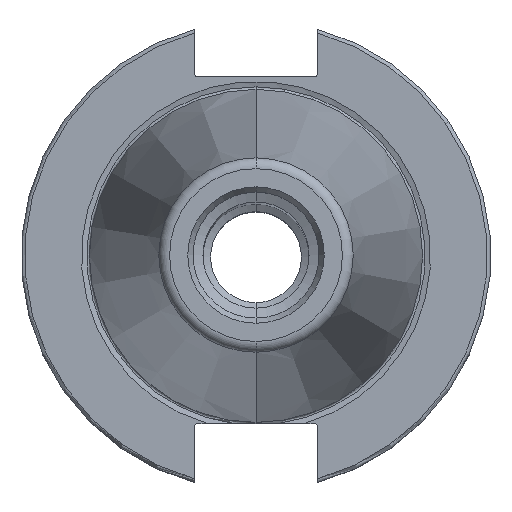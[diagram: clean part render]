
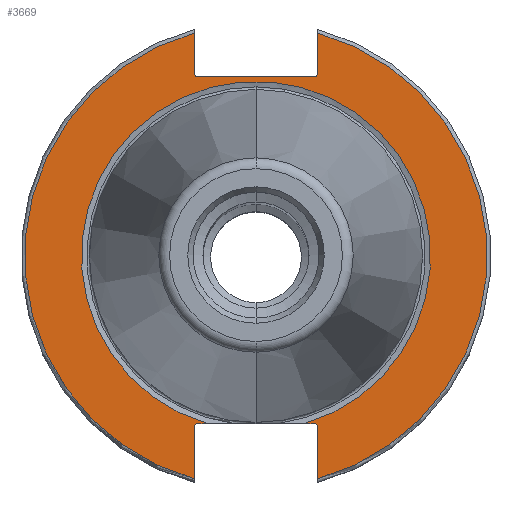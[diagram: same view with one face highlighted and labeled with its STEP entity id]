
A CAD part, top view. The second image highlights one B-rep face of the part: STEP entity #3669.
In plain terms, the highlighted planar face has unit normal (0, 0, 1).
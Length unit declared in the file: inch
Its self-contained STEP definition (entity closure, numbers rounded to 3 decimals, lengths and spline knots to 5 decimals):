
#4 = CIRCLE ( 'NONE', #862, 0.03 ) ;
#29 = PLANE ( 'NONE',  #1503 ) ;
#46 = DIRECTION ( 'NONE',  ( 0., 1., 0. ) ) ;
#84 = CARTESIAN_POINT ( 'NONE',  ( -0.40209, -1.3825, -0.125 ) ) ;
#96 = EDGE_CURVE ( 'NONE', #1644, #322, #4034, .T. ) ;
#107 = LINE ( 'NONE', #2568, #898 ) ;
#146 = LINE ( 'NONE', #733, #2021 ) ;
#147 = ORIENTED_EDGE ( 'NONE', *, *, #2076, .T. ) ;
#150 = LINE ( 'NONE', #2987, #1886 ) ;
#161 = CARTESIAN_POINT ( 'NONE',  ( 0.48, 1.5075, -0.125 ) ) ;
#171 = DIRECTION ( 'NONE',  ( 0., -1., 0. ) ) ;
#226 = CARTESIAN_POINT ( 'NONE',  ( -0.48, 1.4775, -0.125 ) ) ;
#227 = ORIENTED_EDGE ( 'NONE', *, *, #2098, .T. ) ;
#259 = ORIENTED_EDGE ( 'NONE', *, *, #475, .T. ) ;
#281 = EDGE_CURVE ( 'NONE', #3824, #469, #4, .T. ) ;
#303 = AXIS2_PLACEMENT_3D ( 'NONE', #1936, #3169, #328 ) ;
#315 = DIRECTION ( 'NONE',  ( 0., 1., 0. ) ) ;
#321 = VERTEX_POINT ( 'NONE', #2393 ) ;
#322 = VERTEX_POINT ( 'NONE', #1815 ) ;
#328 = DIRECTION ( 'NONE',  ( 0., -1., 0. ) ) ;
#332 = FACE_OUTER_BOUND ( 'NONE', #1821, .T. ) ;
#387 = CARTESIAN_POINT ( 'NONE',  ( -0.48, -1.3825, -0.125 ) ) ;
#388 = DIRECTION ( 'NONE',  ( 0., -1., 0. ) ) ;
#430 = VECTOR ( 'NONE', #4054, 39.37008 ) ;
#469 = VERTEX_POINT ( 'NONE', #3675 ) ;
#475 = EDGE_CURVE ( 'NONE', #3869, #3201, #705, .T. ) ;
#551 = ORIENTED_EDGE ( 'NONE', *, *, #96, .F. ) ;
#585 = DIRECTION ( 'NONE',  ( 0., -1., 0. ) ) ;
#618 = ORIENTED_EDGE ( 'NONE', *, *, #3320, .T. ) ;
#688 = EDGE_CURVE ( 'NONE', #1234, #2871, #2702, .T. ) ;
#705 = LINE ( 'NONE', #1775, #3702 ) ;
#710 = CARTESIAN_POINT ( 'NONE',  ( -0.51, 1.5075, -0.125 ) ) ;
#712 = DIRECTION ( 'NONE',  ( 0., -1., 0. ) ) ;
#733 = CARTESIAN_POINT ( 'NONE',  ( -0.51, 0., -0.125 ) ) ;
#809 = ORIENTED_EDGE ( 'NONE', *, *, #3701, .T. ) ;
#862 = AXIS2_PLACEMENT_3D ( 'NONE', #161, #2709, #1116 ) ;
#867 = CARTESIAN_POINT ( 'NONE',  ( 0.51, 1.5075, -0.125 ) ) ;
#898 = VECTOR ( 'NONE', #3811, 39.37008 ) ;
#901 = CARTESIAN_POINT ( 'NONE',  ( 1.9075, 1.4775, -0.125 ) ) ;
#936 = DIRECTION ( 'NONE',  ( 0., 0., -1. ) ) ;
#939 = DIRECTION ( 'NONE',  ( 0., 0., -1. ) ) ;
#1016 = CARTESIAN_POINT ( 'NONE',  ( -0.51, 1.83806, -0.125 ) ) ;
#1035 = CIRCLE ( 'NONE', #3218, 1.43979 ) ;
#1036 = VECTOR ( 'NONE', #1330, 39.37008 ) ;
#1085 = DIRECTION ( 'NONE',  ( 0., 0., -1. ) ) ;
#1116 = DIRECTION ( 'NONE',  ( 0., -1., 0. ) ) ;
#1142 = AXIS2_PLACEMENT_3D ( 'NONE', #1252, #939, #315 ) ;
#1191 = CARTESIAN_POINT ( 'NONE',  ( 0.48, -1.4125, -0.125 ) ) ;
#1212 = LINE ( 'NONE', #901, #430 ) ;
#1234 = VERTEX_POINT ( 'NONE', #2527 ) ;
#1252 = CARTESIAN_POINT ( 'NONE',  ( 0., 0., -0.125 ) ) ;
#1300 = ORIENTED_EDGE ( 'NONE', *, *, #2767, .T. ) ;
#1303 = ORIENTED_EDGE ( 'NONE', *, *, #688, .F. ) ;
#1330 = DIRECTION ( 'NONE',  ( 0., 1., 0. ) ) ;
#1503 = AXIS2_PLACEMENT_3D ( 'NONE', #2544, #2585, #712 ) ;
#1543 = ORIENTED_EDGE ( 'NONE', *, *, #3044, .T. ) ;
#1590 = DIRECTION ( 'NONE',  ( 0., 0., -1. ) ) ;
#1632 = VECTOR ( 'NONE', #2997, 39.37008 ) ;
#1644 = VERTEX_POINT ( 'NONE', #1923 ) ;
#1692 = VERTEX_POINT ( 'NONE', #710 ) ;
#1729 = EDGE_CURVE ( 'NONE', #2871, #1692, #146, .T. ) ;
#1735 = CARTESIAN_POINT ( 'NONE',  ( 0.51, 0., -0.125 ) ) ;
#1775 = CARTESIAN_POINT ( 'NONE',  ( 1.9075, -1.3825, -0.125 ) ) ;
#1815 = CARTESIAN_POINT ( 'NONE',  ( 0.51, -1.83806, -0.125 ) ) ;
#1821 = EDGE_LOOP ( 'NONE', ( #1851, #1303, #618, #227, #2829, #147, #259, #1300, #809, #551, #3439, #2886, #3601, #1543 ) ) ;
#1851 = ORIENTED_EDGE ( 'NONE', *, *, #1729, .F. ) ;
#1886 = VECTOR ( 'NONE', #2652, 39.37008 ) ;
#1923 = CARTESIAN_POINT ( 'NONE',  ( 0.51, 1.83806, -0.125 ) ) ;
#1931 = DIRECTION ( 'NONE',  ( 0., 1., 0. ) ) ;
#1936 = CARTESIAN_POINT ( 'NONE',  ( -0.48, -1.4125, -0.125 ) ) ;
#2021 = VECTOR ( 'NONE', #388, 39.37008 ) ;
#2076 = EDGE_CURVE ( 'NONE', #2141, #3869, #1035, .T. ) ;
#2077 = DIRECTION ( 'NONE',  ( 1., 0., 0. ) ) ;
#2092 = CIRCLE ( 'NONE', #303, 0.03 ) ;
#2098 = EDGE_CURVE ( 'NONE', #3760, #3280, #2092, .T. ) ;
#2141 = VERTEX_POINT ( 'NONE', #84 ) ;
#2324 = VERTEX_POINT ( 'NONE', #226 ) ;
#2334 = CARTESIAN_POINT ( 'NONE',  ( -0.51, -1.4125, -0.125 ) ) ;
#2393 = CARTESIAN_POINT ( 'NONE',  ( 0.51, -1.4125, -0.125 ) ) ;
#2527 = CARTESIAN_POINT ( 'NONE',  ( -0.51, -1.83806, -0.125 ) ) ;
#2544 = CARTESIAN_POINT ( 'NONE',  ( 1.9075, 0., -0.125 ) ) ;
#2568 = CARTESIAN_POINT ( 'NONE',  ( 1.9075, -1.3825, -0.125 ) ) ;
#2585 = DIRECTION ( 'NONE',  ( 0., 0., 1. ) ) ;
#2652 = DIRECTION ( 'NONE',  ( 0., -1., 0. ) ) ;
#2680 = CIRCLE ( 'NONE', #3743, 0.03 ) ;
#2702 = CIRCLE ( 'NONE', #3821, 1.9075 ) ;
#2709 = DIRECTION ( 'NONE',  ( 0., 0., -1. ) ) ;
#2736 = CARTESIAN_POINT ( 'NONE',  ( -0.48, 1.5075, -0.125 ) ) ;
#2764 = AXIS2_PLACEMENT_3D ( 'NONE', #1191, #936, #585 ) ;
#2767 = EDGE_CURVE ( 'NONE', #3201, #321, #4072, .T. ) ;
#2829 = ORIENTED_EDGE ( 'NONE', *, *, #2932, .T. ) ;
#2871 = VERTEX_POINT ( 'NONE', #1016 ) ;
#2886 = ORIENTED_EDGE ( 'NONE', *, *, #281, .T. ) ;
#2896 = LINE ( 'NONE', #2935, #1036 ) ;
#2916 = CARTESIAN_POINT ( 'NONE',  ( 0., 0., -0.125 ) ) ;
#2932 = EDGE_CURVE ( 'NONE', #3280, #2141, #107, .T. ) ;
#2935 = CARTESIAN_POINT ( 'NONE',  ( -0.51, 0., -0.125 ) ) ;
#2987 = CARTESIAN_POINT ( 'NONE',  ( 0.51, 0., -0.125 ) ) ;
#2997 = DIRECTION ( 'NONE',  ( 0., 1., 0. ) ) ;
#3044 = EDGE_CURVE ( 'NONE', #2324, #1692, #2680, .T. ) ;
#3078 = CARTESIAN_POINT ( 'NONE',  ( 0.40209, -1.3825, -0.125 ) ) ;
#3169 = DIRECTION ( 'NONE',  ( 0., 0., -1. ) ) ;
#3201 = VERTEX_POINT ( 'NONE', #3459 ) ;
#3218 = AXIS2_PLACEMENT_3D ( 'NONE', #2916, #1590, #46 ) ;
#3280 = VERTEX_POINT ( 'NONE', #387 ) ;
#3320 = EDGE_CURVE ( 'NONE', #1234, #3760, #2896, .T. ) ;
#3344 = LINE ( 'NONE', #1735, #1632 ) ;
#3439 = ORIENTED_EDGE ( 'NONE', *, *, #3835, .F. ) ;
#3459 = CARTESIAN_POINT ( 'NONE',  ( 0.48, -1.3825, -0.125 ) ) ;
#3467 = CARTESIAN_POINT ( 'NONE',  ( 0., 0., -0.125 ) ) ;
#3486 = DIRECTION ( 'NONE',  ( 0., 0., -1. ) ) ;
#3601 = ORIENTED_EDGE ( 'NONE', *, *, #3866, .F. ) ;
#3669 = ADVANCED_FACE ( 'NONE', ( #332 ), #29, .T. ) ;
#3675 = CARTESIAN_POINT ( 'NONE',  ( 0.48, 1.4775, -0.125 ) ) ;
#3701 = EDGE_CURVE ( 'NONE', #321, #322, #150, .T. ) ;
#3702 = VECTOR ( 'NONE', #2077, 39.37008 ) ;
#3743 = AXIS2_PLACEMENT_3D ( 'NONE', #2736, #1085, #171 ) ;
#3760 = VERTEX_POINT ( 'NONE', #2334 ) ;
#3811 = DIRECTION ( 'NONE',  ( 1., 0., 0. ) ) ;
#3821 = AXIS2_PLACEMENT_3D ( 'NONE', #3467, #3486, #1931 ) ;
#3824 = VERTEX_POINT ( 'NONE', #867 ) ;
#3835 = EDGE_CURVE ( 'NONE', #3824, #1644, #3344, .T. ) ;
#3866 = EDGE_CURVE ( 'NONE', #2324, #469, #1212, .T. ) ;
#3869 = VERTEX_POINT ( 'NONE', #3078 ) ;
#4034 = CIRCLE ( 'NONE', #1142, 1.9075 ) ;
#4054 = DIRECTION ( 'NONE',  ( 1., 0., 0. ) ) ;
#4072 = CIRCLE ( 'NONE', #2764, 0.03 ) ;
